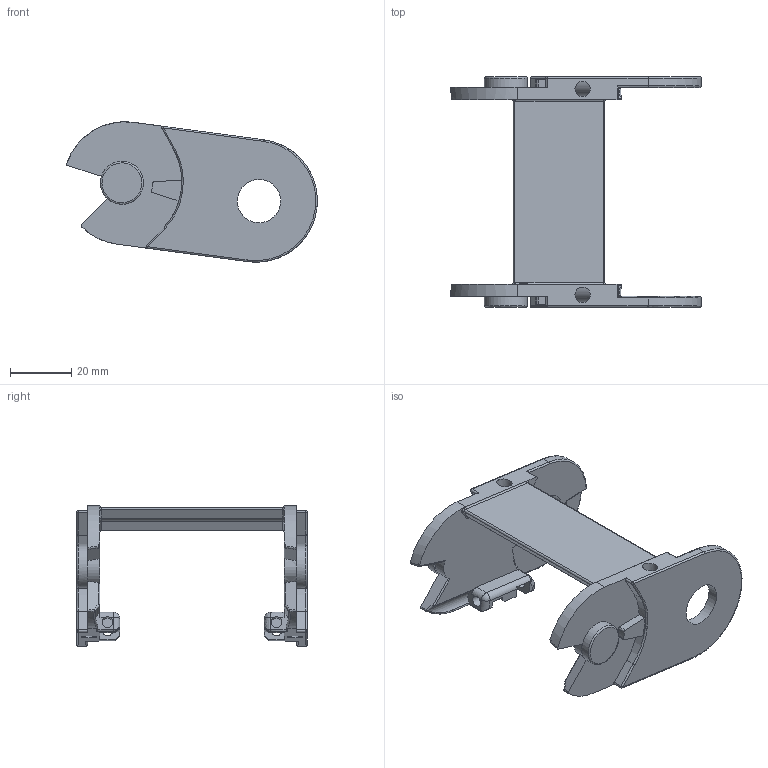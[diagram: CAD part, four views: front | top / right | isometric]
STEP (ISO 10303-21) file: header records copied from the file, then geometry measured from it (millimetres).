
FILE_DESCRIPTION((''),'2;1');
FILE_NAME('C:\Uebbing\PARAMETERKETTEN\KOLIBRI\Kol_40_075_2\Kol_40_075_2.stp','2011-11-02T13:00:21',('Uebbing'),(''),'Autodesk Inventor 10','Autodesk Inventor 10','');
FILE_SCHEMA(('AUTOMOTIVE_DESIGN { 1 0 10303 214 1 1 1 1 }'));
Length unit declared in the file: millimetre
Products named in the file (1): Kol_40_075_2
Bounding box: 81.59 x 75 x 45.67 mm (x, y, z)
Volume: 30168.1 mm3; surface area: 19930.7 mm2
Topology: 1 solids, 1 shells, 551 faces, 1433 edges, 907 vertices
Faces by surface type: bspline 239, plane 201, cylinder 93, torus 10, sphere 8
Full cylindrical faces by diameter (mm): 1.609 x1, 2.825 x1, 3.5 x2, 4 x2, 5 x1, 6 x1, 14 x1, 14.1 x1
Entity records: 19911 total; most frequent: CARTESIAN_POINT 7402, ORIENTED_EDGE 2810, DIRECTION 2219, EDGE_CURVE 1405, VERTEX_POINT 900, VECTOR 813, LINE 813, AXIS2_PLACEMENT_3D 703
